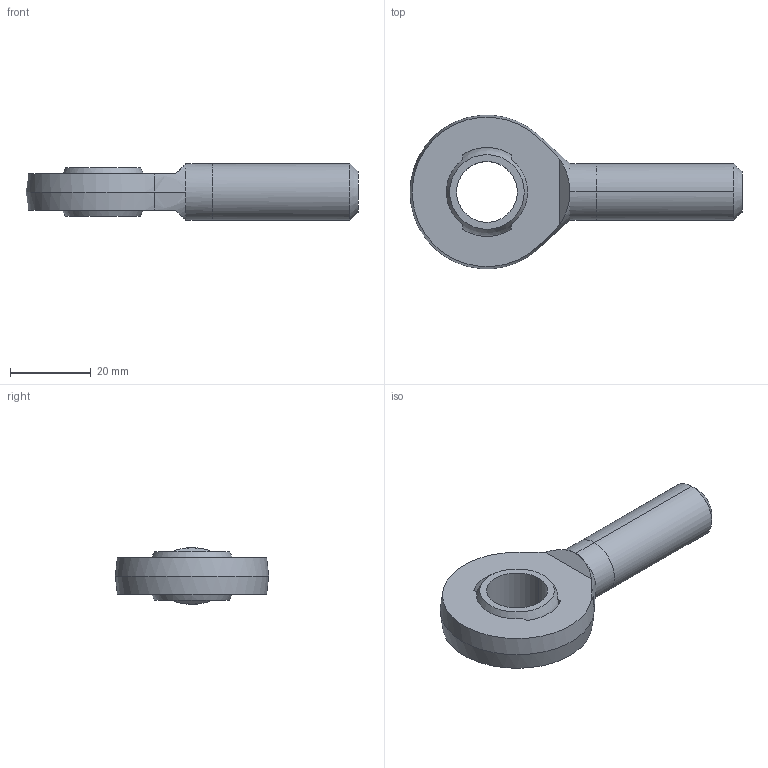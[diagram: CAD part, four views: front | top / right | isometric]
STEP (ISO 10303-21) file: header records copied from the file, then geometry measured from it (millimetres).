
FILE_DESCRIPTION (( 'STEP AP203' ), '1' );
FILE_NAME ('65860.W0015.step', '2014-02-06T11:43:47', ( 'User' ), ( '' ), 'SwSTEP 2.0', 'SolidWorks 2009', '' );
FILE_SCHEMA (( 'CONFIG_CONTROL_DESIGN' ));
Length unit declared in the file: millimetre
Products named in the file (3): Part1_65860.W0015; Part2_65860.W0015; 65860.W0015
Assembly tree (2 placements, depth 2):
  65860.W0015
    Part1_65860.W0015
    Part2_65860.W0015
Bounding box: 82 x 37.88 x 14 mm (x, y, z)
Volume: 15608.8 mm3; surface area: 6734.3 mm2
Topology: 2 solids, 2 shells, 35 faces, 82 edges, 51 vertices
Faces by surface type: plane 15, sphere 8, cylinder 8, cone 4
Entity records: 1357 total; most frequent: CARTESIAN_POINT 231, DIRECTION 196, ORIENTED_EDGE 160, AXIS2_PLACEMENT_3D 84, EDGE_CURVE 80, VERTEX_POINT 51, CIRCLE 44, EDGE_LOOP 41
